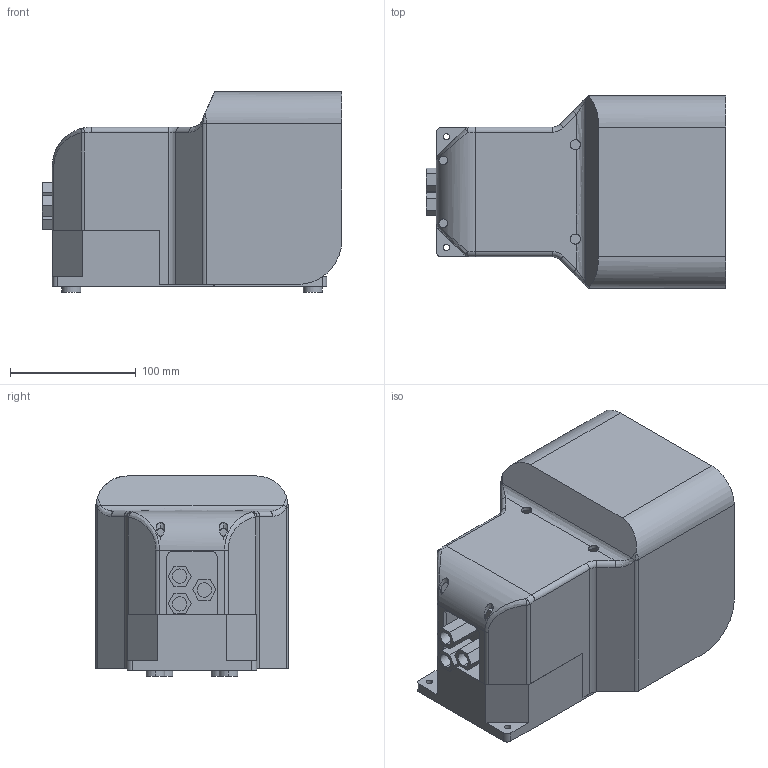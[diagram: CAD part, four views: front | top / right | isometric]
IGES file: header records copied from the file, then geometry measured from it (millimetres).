
Global section: file name: No Iges File Name specified; native system: AutoDesk Inventor R11.0; preprocessor: AutoDesk Inventor Iges Exporter R11.0; author: No Author specified; organization: No Organization specified; date: 20061219.113521; units: millimetre
Bounding box: 238 x 153 x 159 mm (x, y, z)
Volume: 1073110.1 mm3; surface area: 299259.3 mm2
Topology: 2 solids, 2 shells, 200 faces, 532 edges, 342 vertices
Faces by surface type: plane 96, cylinder 38, bspline 32, revolution 28, torus 4, sphere 2
